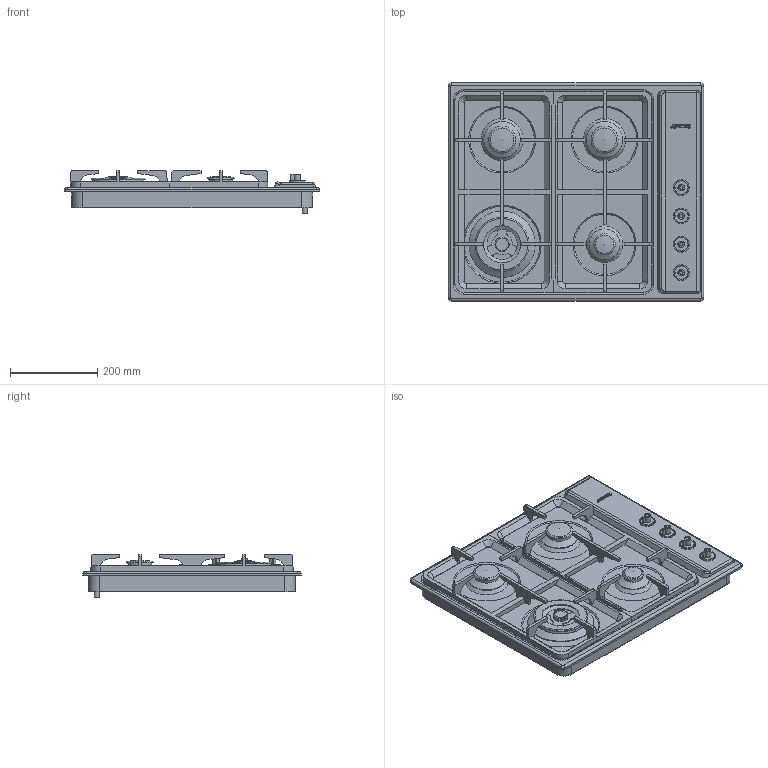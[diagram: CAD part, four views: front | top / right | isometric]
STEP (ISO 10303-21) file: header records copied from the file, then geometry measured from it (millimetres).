
FILE_DESCRIPTION(/* description */ (''),/* implementation_level */ '2;1');
FILE_NAME(/* name */ 'piano cir66nes3.stp',/* time_stamp */ '2019-03-06T15:25:51+01:00',/* author */ (''),/* organization */ (''),/* preprocessor_version */ 'ST-DEVELOPER v16',/* originating_system */ 'SIEMENS PLM Software NX 11.0',/* authorisation */ '');
FILE_SCHEMA (('AUTOMOTIVE_DESIGN { 1 0 10303 214 3 1 1 1 }'));
Length unit declared in the file: millimetre
Products named in the file (1): gobb15B86FC8xqjo
Bounding box: 585 x 500 x 98.47 mm (x, y, z)
Volume: 3302978.5 mm3; surface area: 1752818.2 mm2
Topology: 40 solids, 40 shells, 704 faces, 1697 edges, 1104 vertices
Faces by surface type: plane 427, cylinder 208, cone 26, torus 14, extrusion 13, sphere 8, bspline 8
Full cylindrical faces by diameter (mm): 3.988 x6, 6 x1, 8 x1, 10 x10, 12 x2, 16 x4, 21 x4, 23 x1, 23.5 x1, 28 x1, 30.9 x4, 31.5 x4, 32 x1, 36 x4, 42 x1, 43 x1, 55 x2, 56 x2, 70.5 x1, 79.5 x1, 83 x2, 85 x1, 89.5 x1, 90 x1, 98.5 x1, 106.5 x1, 111 x1, 113.5 x1, 122 x1, 124 x1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
Entity records: 20440 total; most frequent: CARTESIAN_POINT 3876, DIRECTION 3409, ORIENTED_EDGE 3144, EDGE_CURVE 1572, AXIS2_PLACEMENT_3D 1165, VERTEX_POINT 1080, VECTOR 1079, LINE 1066
